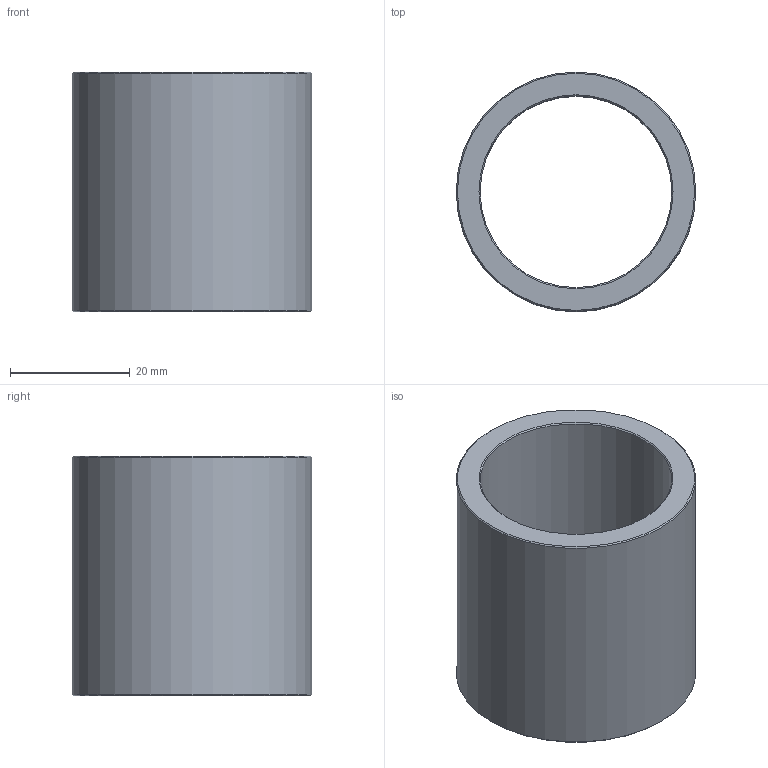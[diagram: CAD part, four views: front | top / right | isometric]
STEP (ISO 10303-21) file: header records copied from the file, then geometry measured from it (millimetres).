
FILE_DESCRIPTION(('STEP AP203'),'1');
FILE_NAME('C:/Users/Rodrigo/Desktop/GA4.032.040-1.step','2016-11-07T17:19:56',(' '),(' '),'Spatial InterOp 3D',' ',' ');
FILE_SCHEMA(('CONFIG_CONTROL_DESIGN'));
Length unit declared in the file: millimetre
Products named in the file (1): 1
Bounding box: 40 x 40 x 40 mm (x, y, z)
Volume: 18086.5 mm3; surface area: 9899.6 mm2
Topology: 1 solids, 1 shells, 8 faces, 14 edges, 8 vertices
Faces by surface type: cone 4, cylinder 2, plane 2
Full cylindrical faces by diameter (mm): 32 x1, 40 x1
Entity records: 212 total; most frequent: DIRECTION 34, CARTESIAN_POINT 25, AXIS2_PLACEMENT_3D 17, EDGE_LOOP 16, ORIENTED_EDGE 16, FACE_OUTER_BOUND 10, ADVANCED_FACE 8, EDGE_CURVE 8
